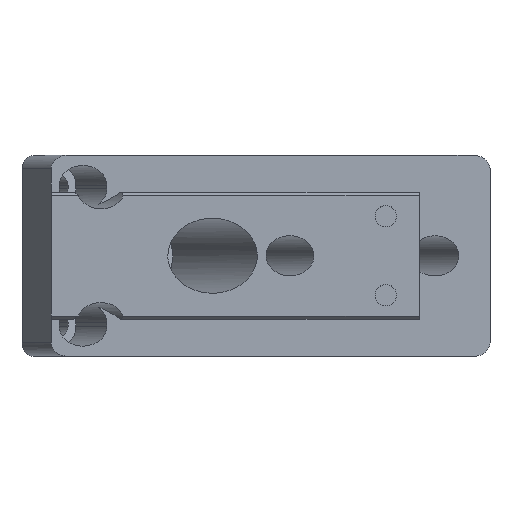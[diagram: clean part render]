
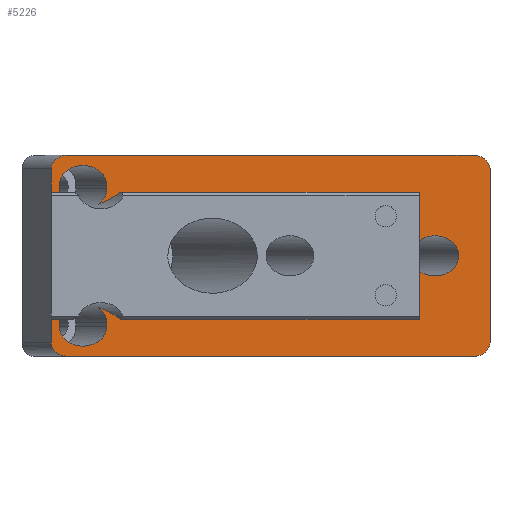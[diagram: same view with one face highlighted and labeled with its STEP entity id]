
A CAD part, top view. The second image highlights one B-rep face of the part: STEP entity #5226.
In plain terms, the highlighted planar face has unit normal (0, 0, 1).
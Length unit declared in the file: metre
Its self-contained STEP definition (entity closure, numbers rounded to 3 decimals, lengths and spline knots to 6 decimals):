
#316=ELLIPSE('',#5558,0.002385,0.002);
#317=ELLIPSE('',#5559,0.002385,0.002);
#318=ELLIPSE('',#5560,0.003577,0.003);
#319=ELLIPSE('',#5561,0.003577,0.003);
#320=ELLIPSE('',#5562,0.003577,0.003);
#321=ELLIPSE('',#5563,0.003577,0.003);
#322=ELLIPSE('',#5564,0.003577,0.003);
#323=ELLIPSE('',#5565,0.003577,0.003);
#324=ELLIPSE('',#5566,0.003577,0.003);
#325=ELLIPSE('',#5567,0.002385,0.002);
#326=ELLIPSE('',#5568,0.002385,0.002);
#522=ORIENTED_EDGE('',*,*,#2132,.T.);
#523=ORIENTED_EDGE('',*,*,#2133,.T.);
#524=ORIENTED_EDGE('',*,*,#2134,.T.);
#525=ORIENTED_EDGE('',*,*,#2135,.T.);
#526=ORIENTED_EDGE('',*,*,#2136,.F.);
#527=ORIENTED_EDGE('',*,*,#2137,.F.);
#528=ORIENTED_EDGE('',*,*,#2138,.F.);
#529=ORIENTED_EDGE('',*,*,#2139,.T.);
#530=ORIENTED_EDGE('',*,*,#2140,.F.);
#531=ORIENTED_EDGE('',*,*,#2141,.F.);
#532=ORIENTED_EDGE('',*,*,#2142,.F.);
#533=ORIENTED_EDGE('',*,*,#2143,.F.);
#534=ORIENTED_EDGE('',*,*,#2144,.F.);
#535=ORIENTED_EDGE('',*,*,#2145,.T.);
#536=ORIENTED_EDGE('',*,*,#2146,.F.);
#537=ORIENTED_EDGE('',*,*,#2147,.T.);
#538=ORIENTED_EDGE('',*,*,#2148,.F.);
#539=ORIENTED_EDGE('',*,*,#2149,.T.);
#540=ORIENTED_EDGE('',*,*,#2150,.F.);
#541=ORIENTED_EDGE('',*,*,#2151,.F.);
#542=ORIENTED_EDGE('',*,*,#2152,.F.);
#543=ORIENTED_EDGE('',*,*,#2153,.T.);
#544=ORIENTED_EDGE('',*,*,#2154,.F.);
#545=ORIENTED_EDGE('',*,*,#2155,.T.);
#546=ORIENTED_EDGE('',*,*,#2156,.F.);
#547=ORIENTED_EDGE('',*,*,#2157,.T.);
#2132=EDGE_CURVE('',#2937,#2938,#3453,.T.);
#2133=EDGE_CURVE('',#2938,#2939,#316,.F.);
#2134=EDGE_CURVE('',#2939,#2940,#3454,.T.);
#2135=EDGE_CURVE('',#2940,#2941,#317,.F.);
#2136=EDGE_CURVE('',#2942,#2941,#3455,.T.);
#2137=EDGE_CURVE('',#2943,#2942,#3456,.T.);
#2138=EDGE_CURVE('',#2944,#2943,#318,.F.);
#2139=EDGE_CURVE('',#2944,#2945,#3457,.T.);
#2140=EDGE_CURVE('',#2946,#2945,#319,.F.);
#2141=EDGE_CURVE('',#2947,#2946,#3458,.T.);
#2142=EDGE_CURVE('',#2948,#2947,#320,.F.);
#2143=EDGE_CURVE('',#2949,#2948,#3459,.T.);
#2144=EDGE_CURVE('',#2950,#2949,#3460,.T.);
#2145=EDGE_CURVE('',#2950,#2951,#321,.T.);
#2146=EDGE_CURVE('',#2952,#2951,#3461,.T.);
#2147=EDGE_CURVE('',#2952,#2953,#3462,.T.);
#2148=EDGE_CURVE('',#2954,#2953,#322,.F.);
#2149=EDGE_CURVE('',#2954,#2955,#3463,.T.);
#2150=EDGE_CURVE('',#2956,#2955,#323,.F.);
#2151=EDGE_CURVE('',#2957,#2956,#3464,.T.);
#2152=EDGE_CURVE('',#2958,#2957,#324,.F.);
#2153=EDGE_CURVE('',#2958,#2959,#3465,.T.);
#2154=EDGE_CURVE('',#2960,#2959,#3466,.T.);
#2155=EDGE_CURVE('',#2960,#2961,#325,.F.);
#2156=EDGE_CURVE('',#2962,#2961,#3467,.T.);
#2157=EDGE_CURVE('',#2962,#2937,#326,.F.);
#2937=VERTEX_POINT('',#7045);
#2938=VERTEX_POINT('',#7046);
#2939=VERTEX_POINT('',#7048);
#2940=VERTEX_POINT('',#7050);
#2941=VERTEX_POINT('',#7052);
#2942=VERTEX_POINT('',#7054);
#2943=VERTEX_POINT('',#7056);
#2944=VERTEX_POINT('',#7058);
#2945=VERTEX_POINT('',#7060);
#2946=VERTEX_POINT('',#7062);
#2947=VERTEX_POINT('',#7064);
#2948=VERTEX_POINT('',#7066);
#2949=VERTEX_POINT('',#7068);
#2950=VERTEX_POINT('',#7070);
#2951=VERTEX_POINT('',#7072);
#2952=VERTEX_POINT('',#7074);
#2953=VERTEX_POINT('',#7076);
#2954=VERTEX_POINT('',#7078);
#2955=VERTEX_POINT('',#7080);
#2956=VERTEX_POINT('',#7082);
#2957=VERTEX_POINT('',#7084);
#2958=VERTEX_POINT('',#7086);
#2959=VERTEX_POINT('',#7088);
#2960=VERTEX_POINT('',#7090);
#2961=VERTEX_POINT('',#7092);
#2962=VERTEX_POINT('',#7094);
#3453=LINE('',#7044,#3949);
#3454=LINE('',#7049,#3950);
#3455=LINE('',#7053,#3951);
#3456=LINE('',#7055,#3952);
#3457=LINE('',#7059,#3953);
#3458=LINE('',#7063,#3954);
#3459=LINE('',#7067,#3955);
#3460=LINE('',#7069,#3956);
#3461=LINE('',#7073,#3957);
#3462=LINE('',#7075,#3958);
#3463=LINE('',#7079,#3959);
#3464=LINE('',#7083,#3960);
#3465=LINE('',#7087,#3961);
#3466=LINE('',#7089,#3962);
#3467=LINE('',#7093,#3963);
#3949=VECTOR('',#5920,1.);
#3950=VECTOR('',#5923,1.);
#3951=VECTOR('',#5926,1.);
#3952=VECTOR('',#5927,1.);
#3953=VECTOR('',#5930,1.);
#3954=VECTOR('',#5933,1.);
#3955=VECTOR('',#5936,1.);
#3956=VECTOR('',#5937,1.);
#3957=VECTOR('',#5940,1.);
#3958=VECTOR('',#5941,1.);
#3959=VECTOR('',#5944,1.);
#3960=VECTOR('',#5947,1.);
#3961=VECTOR('',#5950,1.);
#3962=VECTOR('',#5951,1.);
#3963=VECTOR('',#5954,1.);
#4431=EDGE_LOOP('',(#522,#523,#524,#525,#526,#527,#528,#529,#530,#531,#532,
#533,#534,#535,#536,#537,#538,#539,#540,#541,#542,#543,#544,#545,#546,#547));
#4761=FACE_BOUND('',#4431,.T.);
#5079=PLANE('',#5557);
#5226=ADVANCED_FACE('',(#4761),#5079,.F.);
#5557=AXIS2_PLACEMENT_3D('',#7043,#5918,#5919);
#5558=AXIS2_PLACEMENT_3D('',#7047,#5921,#5922);
#5559=AXIS2_PLACEMENT_3D('',#7051,#5924,#5925);
#5560=AXIS2_PLACEMENT_3D('',#7057,#5928,#5929);
#5561=AXIS2_PLACEMENT_3D('',#7061,#5931,#5932);
#5562=AXIS2_PLACEMENT_3D('',#7065,#5934,#5935);
#5563=AXIS2_PLACEMENT_3D('',#7071,#5938,#5939);
#5564=AXIS2_PLACEMENT_3D('',#7077,#5942,#5943);
#5565=AXIS2_PLACEMENT_3D('',#7081,#5945,#5946);
#5566=AXIS2_PLACEMENT_3D('',#7085,#5948,#5949);
#5567=AXIS2_PLACEMENT_3D('',#7091,#5952,#5953);
#5568=AXIS2_PLACEMENT_3D('',#7095,#5955,#5956);
#5918=DIRECTION('',(0.,0.,-1.));
#5919=DIRECTION('',(-1.,0.,0.));
#5920=DIRECTION('',(0.,1.,0.));
#5921=DIRECTION('',(0.,0.,-1.));
#5922=DIRECTION('',(1.,0.,0.));
#5923=DIRECTION('',(-1.,0.,0.));
#5924=DIRECTION('',(0.,0.,-1.));
#5925=DIRECTION('',(-1.,0.,0.));
#5926=DIRECTION('',(0.,1.,0.));
#5927=DIRECTION('',(-1.,0.,0.));
#5928=DIRECTION('',(0.,0.,-1.));
#5929=DIRECTION('',(-1.,0.,0.));
#5930=DIRECTION('',(0.,1.,0.));
#5931=DIRECTION('',(0.,0.,-1.));
#5932=DIRECTION('',(-1.,0.,0.));
#5933=DIRECTION('',(0.,1.,0.));
#5934=DIRECTION('',(0.,0.,-1.));
#5935=DIRECTION('',(-1.,0.,0.));
#5936=DIRECTION('',(-1.,0.,0.));
#5937=DIRECTION('',(0.,1.,0.));
#5938=DIRECTION('',(0.,0.,-1.));
#5939=DIRECTION('',(-1.,0.,0.));
#5940=DIRECTION('',(0.,1.,0.));
#5941=DIRECTION('',(-1.,0.,0.));
#5942=DIRECTION('',(0.,0.,-1.));
#5943=DIRECTION('',(-1.,0.,0.));
#5944=DIRECTION('',(0.,-1.,0.));
#5945=DIRECTION('',(0.,0.,-1.));
#5946=DIRECTION('',(-1.,0.,0.));
#5947=DIRECTION('',(0.,-1.,0.));
#5948=DIRECTION('',(0.,0.,-1.));
#5949=DIRECTION('',(-1.,0.,0.));
#5950=DIRECTION('',(-1.,0.,0.));
#5951=DIRECTION('',(0.,1.,0.));
#5952=DIRECTION('',(0.,0.,-1.));
#5953=DIRECTION('',(1.,0.,0.));
#5954=DIRECTION('',(-1.,0.,0.));
#5955=DIRECTION('',(0.,0.,-1.));
#5956=DIRECTION('',(-1.,0.,0.));
#7043=CARTESIAN_POINT('',(0.03279,-0.015,0.));
#7044=CARTESIAN_POINT('',(0.06558,-0.015,0.));
#7045=CARTESIAN_POINT('',(0.06558,-0.013,0.));
#7046=CARTESIAN_POINT('',(0.06558,0.013,0.));
#7047=CARTESIAN_POINT('',(0.063195,0.013,0.));
#7048=CARTESIAN_POINT('',(0.063195,0.015,0.));
#7049=CARTESIAN_POINT('',(0.03279,0.015,0.));
#7050=CARTESIAN_POINT('',(0.002385,0.015,0.));
#7051=CARTESIAN_POINT('',(0.002385,0.013,0.));
#7052=CARTESIAN_POINT('',(0.,0.013,0.));
#7053=CARTESIAN_POINT('',(0.,-0.015,0.));
#7054=CARTESIAN_POINT('',(0.,0.007695,0.));
#7055=CARTESIAN_POINT('',(0.055,0.007695,0.));
#7056=CARTESIAN_POINT('',(0.00248,0.007695,0.));
#7057=CARTESIAN_POINT('',(0.004769,0.01,0.));
#7058=CARTESIAN_POINT('',(0.001192,0.01,0.));
#7059=CARTESIAN_POINT('',(0.001192,-0.015,0.));
#7060=CARTESIAN_POINT('',(0.001192,0.0105,0.));
#7061=CARTESIAN_POINT('',(0.004769,0.0105,0.));
#7062=CARTESIAN_POINT('',(0.008347,0.0105,0.));
#7063=CARTESIAN_POINT('',(0.008347,-0.015,0.));
#7064=CARTESIAN_POINT('',(0.008347,0.01,0.));
#7065=CARTESIAN_POINT('',(0.004769,0.01,0.));
#7066=CARTESIAN_POINT('',(0.007059,0.007695,0.));
#7067=CARTESIAN_POINT('',(0.055,0.007695,0.));
#7068=CARTESIAN_POINT('',(0.055,0.007695,0.));
#7069=CARTESIAN_POINT('',(0.055,0.,0.));
#7070=CARTESIAN_POINT('',(0.055,0.00226,0.));
#7071=CARTESIAN_POINT('',(0.057353,0.,0.));
#7072=CARTESIAN_POINT('',(0.055,-0.00226,0.));
#7073=CARTESIAN_POINT('',(0.055,0.,0.));
#7074=CARTESIAN_POINT('',(0.055,-0.007695,0.));
#7075=CARTESIAN_POINT('',(0.055,-0.007695,0.));
#7076=CARTESIAN_POINT('',(0.007059,-0.007695,0.));
#7077=CARTESIAN_POINT('',(0.004769,-0.01,0.));
#7078=CARTESIAN_POINT('',(0.008347,-0.01,0.));
#7079=CARTESIAN_POINT('',(0.008347,-0.015,0.));
#7080=CARTESIAN_POINT('',(0.008347,-0.0105,0.));
#7081=CARTESIAN_POINT('',(0.004769,-0.0105,0.));
#7082=CARTESIAN_POINT('',(0.001192,-0.0105,0.));
#7083=CARTESIAN_POINT('',(0.001192,-0.015,0.));
#7084=CARTESIAN_POINT('',(0.001192,-0.01,0.));
#7085=CARTESIAN_POINT('',(0.004769,-0.01,0.));
#7086=CARTESIAN_POINT('',(0.00248,-0.007695,0.));
#7087=CARTESIAN_POINT('',(0.055,-0.007695,0.));
#7088=CARTESIAN_POINT('',(0.,-0.007695,0.));
#7089=CARTESIAN_POINT('',(0.,-0.015,0.));
#7090=CARTESIAN_POINT('',(0.,-0.013,0.));
#7091=CARTESIAN_POINT('',(0.002385,-0.013,0.));
#7092=CARTESIAN_POINT('',(0.002385,-0.015,0.));
#7093=CARTESIAN_POINT('',(0.03279,-0.015,0.));
#7094=CARTESIAN_POINT('',(0.063195,-0.015,0.));
#7095=CARTESIAN_POINT('',(0.063195,-0.013,0.));
